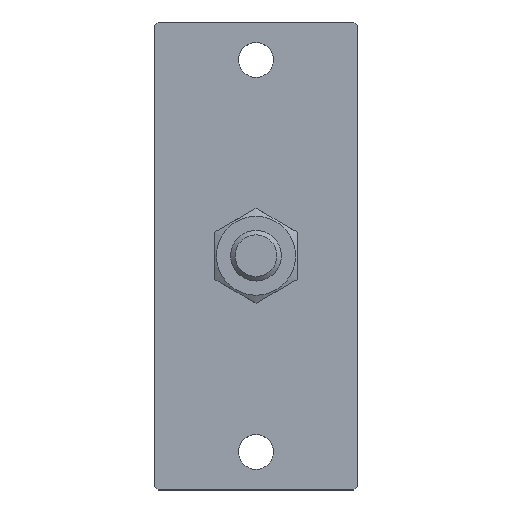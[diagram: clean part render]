
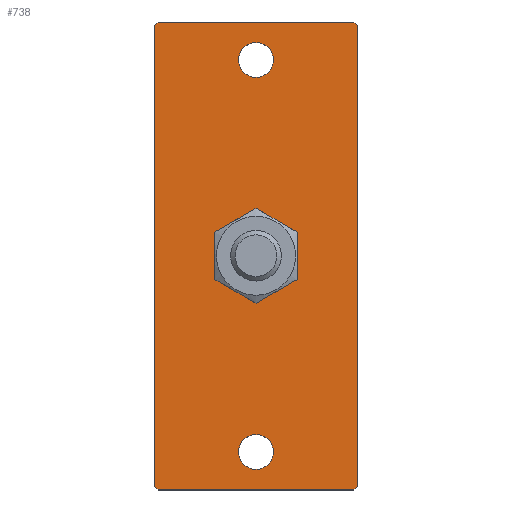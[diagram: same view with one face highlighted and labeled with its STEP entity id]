
A CAD part, top view. The second image highlights one B-rep face of the part: STEP entity #738.
In plain terms, the highlighted planar face has unit normal (0, 0, 1).
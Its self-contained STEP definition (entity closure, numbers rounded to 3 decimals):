
#573=CARTESIAN_POINT('',(-11.983,36.5,14.));
#574=VERTEX_POINT('',#573);
#575=CARTESIAN_POINT('',(-11.483,37.0,14.));
#576=VERTEX_POINT('',#575);
#577=CARTESIAN_POINT('',(-11.983,36.5,14.));
#578=DIRECTION('',(0.707,0.707,0.0));
#579=VECTOR('',#578,0.707);
#580=LINE('',#577,#579);
#581=EDGE_CURVE('',#574,#576,#580,.T.);
#616=CARTESIAN_POINT('',(4.017,0.,14.));
#617=DIRECTION('',(0.0,0.0,1.0));
#618=DIRECTION('',(1.0,0.0,0.0));
#619=AXIS2_PLACEMENT_3D('',#616,#617,#618);
#620=PLANE('',#619);
#621=ORIENTED_EDGE('',*,*,#581,.F.);
#622=CARTESIAN_POINT('',(-11.983,-36.5,14.));
#623=VERTEX_POINT('',#622);
#624=CARTESIAN_POINT('',(-11.983,-36.5,14.));
#625=DIRECTION('',(0.0,1.0,0.0));
#626=VECTOR('',#625,73.0);
#627=LINE('',#624,#626);
#628=EDGE_CURVE('',#623,#574,#627,.T.);
#629=ORIENTED_EDGE('',*,*,#628,.F.);
#630=CARTESIAN_POINT('',(-11.483,-37.0,14.));
#631=VERTEX_POINT('',#630);
#632=CARTESIAN_POINT('',(-11.483,-37.0,14.));
#633=DIRECTION('',(-0.707,0.707,0.0));
#634=VECTOR('',#633,0.707);
#635=LINE('',#632,#634);
#636=EDGE_CURVE('',#631,#623,#635,.T.);
#637=ORIENTED_EDGE('',*,*,#636,.F.);
#638=CARTESIAN_POINT('',(19.517,-37.0,14.));
#639=VERTEX_POINT('',#638);
#640=CARTESIAN_POINT('',(19.517,-37.0,14.));
#641=DIRECTION('',(-1.0,0.0,0.0));
#642=VECTOR('',#641,31.);
#643=LINE('',#640,#642);
#644=EDGE_CURVE('',#639,#631,#643,.T.);
#645=ORIENTED_EDGE('',*,*,#644,.F.);
#646=CARTESIAN_POINT('',(20.017,-36.5,14.));
#647=VERTEX_POINT('',#646);
#648=CARTESIAN_POINT('',(20.017,-36.5,14.));
#649=DIRECTION('',(-0.707,-0.707,0.0));
#650=VECTOR('',#649,0.707);
#651=LINE('',#648,#650);
#652=EDGE_CURVE('',#647,#639,#651,.T.);
#653=ORIENTED_EDGE('',*,*,#652,.F.);
#654=CARTESIAN_POINT('',(20.017,36.5,14.));
#655=VERTEX_POINT('',#654);
#656=CARTESIAN_POINT('',(20.017,36.5,14.));
#657=DIRECTION('',(0.0,-1.0,0.0));
#658=VECTOR('',#657,73.0);
#659=LINE('',#656,#658);
#660=EDGE_CURVE('',#655,#647,#659,.T.);
#661=ORIENTED_EDGE('',*,*,#660,.F.);
#662=CARTESIAN_POINT('',(19.517,37.0,14.));
#663=VERTEX_POINT('',#662);
#664=CARTESIAN_POINT('',(19.517,37.0,14.));
#665=DIRECTION('',(0.707,-0.707,0.0));
#666=VECTOR('',#665,0.707);
#667=LINE('',#664,#666);
#668=EDGE_CURVE('',#663,#655,#667,.T.);
#669=ORIENTED_EDGE('',*,*,#668,.F.);
#670=CARTESIAN_POINT('',(-11.483,37.0,14.));
#671=DIRECTION('',(1.0,0.0,0.0));
#672=VECTOR('',#671,31.0);
#673=LINE('',#670,#672);
#674=EDGE_CURVE('',#576,#663,#673,.T.);
#675=ORIENTED_EDGE('',*,*,#674,.F.);
#676=EDGE_LOOP('',(#621,#629,#637,#645,#653,#661,#669,#675));
#677=FACE_OUTER_BOUND('',#676,.T.);
#678=CARTESIAN_POINT('',(6.767,31.0,14.));
#679=VERTEX_POINT('',#678);
#680=CARTESIAN_POINT('',(4.017,31.0,14.));
#681=DIRECTION('',(0.0,0.0,-1.0));
#682=DIRECTION('',(-1.0,0.0,0.0));
#683=AXIS2_PLACEMENT_3D('',#680,#681,#682);
#684=CIRCLE('',#683,2.75);
#685=EDGE_CURVE('',#679,#679,#684,.T.);
#686=ORIENTED_EDGE('',*,*,#685,.T.);
#687=EDGE_LOOP('',(#686));
#688=FACE_BOUND('',#687,.T.);
#689=CARTESIAN_POINT('',(4.017,5.0,14.));
#690=VERTEX_POINT('',#689);
#691=CARTESIAN_POINT('',(9.017,0.,14.));
#692=VERTEX_POINT('',#691);
#693=CARTESIAN_POINT('',(4.017,0.0,14.));
#694=DIRECTION('',(0.0,0.0,-1.0));
#695=DIRECTION('',(0.0,1.0,0.0));
#696=AXIS2_PLACEMENT_3D('',#693,#694,#695);
#697=CIRCLE('',#696,5.);
#698=EDGE_CURVE('',#690,#692,#697,.T.);
#699=ORIENTED_EDGE('',*,*,#698,.T.);
#700=CARTESIAN_POINT('',(4.017,-5.,14.));
#701=VERTEX_POINT('',#700);
#702=CARTESIAN_POINT('',(4.017,0.0,14.));
#703=DIRECTION('',(0.0,0.0,-1.0));
#704=DIRECTION('',(0.0,1.0,0.0));
#705=AXIS2_PLACEMENT_3D('',#702,#703,#704);
#706=CIRCLE('',#705,5.);
#707=EDGE_CURVE('',#692,#701,#706,.T.);
#708=ORIENTED_EDGE('',*,*,#707,.T.);
#709=CARTESIAN_POINT('',(-0.983,0.,14.));
#710=VERTEX_POINT('',#709);
#711=CARTESIAN_POINT('',(4.017,0.0,14.));
#712=DIRECTION('',(0.0,0.0,-1.0));
#713=DIRECTION('',(0.0,1.0,0.0));
#714=AXIS2_PLACEMENT_3D('',#711,#712,#713);
#715=CIRCLE('',#714,5.);
#716=EDGE_CURVE('',#701,#710,#715,.T.);
#717=ORIENTED_EDGE('',*,*,#716,.T.);
#718=CARTESIAN_POINT('',(4.017,0.0,14.));
#719=DIRECTION('',(0.0,0.0,-1.0));
#720=DIRECTION('',(0.0,1.0,0.0));
#721=AXIS2_PLACEMENT_3D('',#718,#719,#720);
#722=CIRCLE('',#721,5.);
#723=EDGE_CURVE('',#710,#690,#722,.T.);
#724=ORIENTED_EDGE('',*,*,#723,.T.);
#725=EDGE_LOOP('',(#699,#708,#717,#724));
#726=FACE_BOUND('',#725,.T.);
#727=CARTESIAN_POINT('',(6.767,-31.0,14.));
#728=VERTEX_POINT('',#727);
#729=CARTESIAN_POINT('',(4.017,-31.0,14.));
#730=DIRECTION('',(0.0,0.0,-1.0));
#731=DIRECTION('',(-1.0,0.0,0.0));
#732=AXIS2_PLACEMENT_3D('',#729,#730,#731);
#733=CIRCLE('',#732,2.75);
#734=EDGE_CURVE('',#728,#728,#733,.T.);
#735=ORIENTED_EDGE('',*,*,#734,.T.);
#736=EDGE_LOOP('',(#735));
#737=FACE_BOUND('',#736,.T.);
#738=ADVANCED_FACE('',(#677,#688,#726,#737),#620,.T.);
